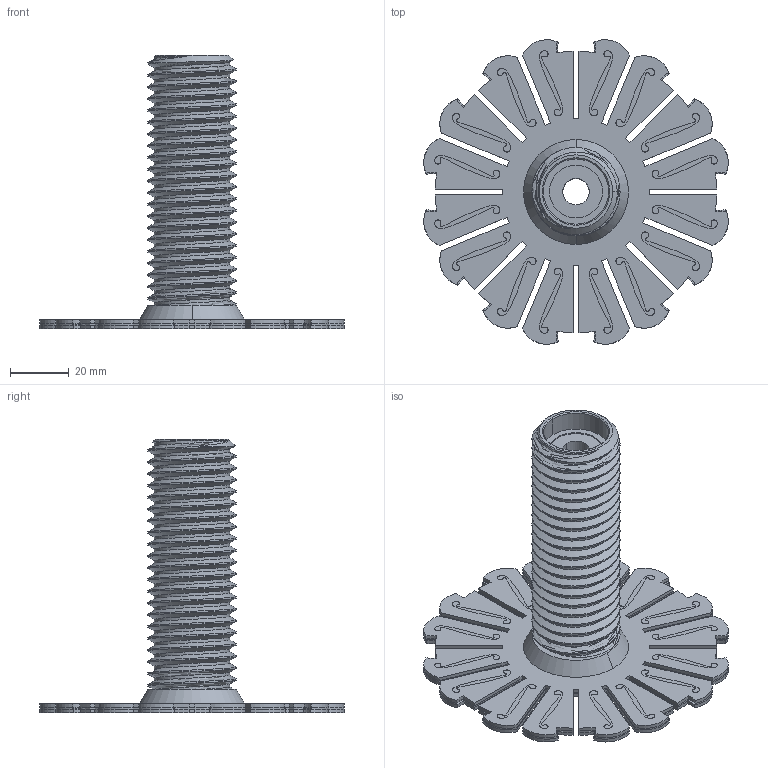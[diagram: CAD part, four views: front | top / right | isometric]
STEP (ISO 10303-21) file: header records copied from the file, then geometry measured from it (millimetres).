
FILE_DESCRIPTION (( 'STEP AP214' ), '1' );
FILE_NAME ('Hub_v3.2.STEP', '2019-03-31T20:08:36', ( '' ), ( '' ), 'SwSTEP 2.0', 'SolidWorks 2018', '' );
FILE_SCHEMA (( 'AUTOMOTIVE_DESIGN' ));
Length unit declared in the file: millimetre
Products named in the file (1): Hub_v3.2
Bounding box: 103.69 x 103.69 x 93 mm (x, y, z)
Volume: 66169.6 mm3; surface area: 45163 mm2
Topology: 18 solids, 18 shells, 1323 faces, 3836 edges, 2554 vertices
Faces by surface type: bspline 643, cylinder 338, plane 334, cone 8
Entity records: 69815 total; most frequent: CARTESIAN_POINT 37041, ORIENTED_EDGE 7672, DIRECTION 4473, EDGE_CURVE 3836, VERTEX_POINT 2554, LINE 1813, VECTOR 1813, EDGE_LOOP 1364
